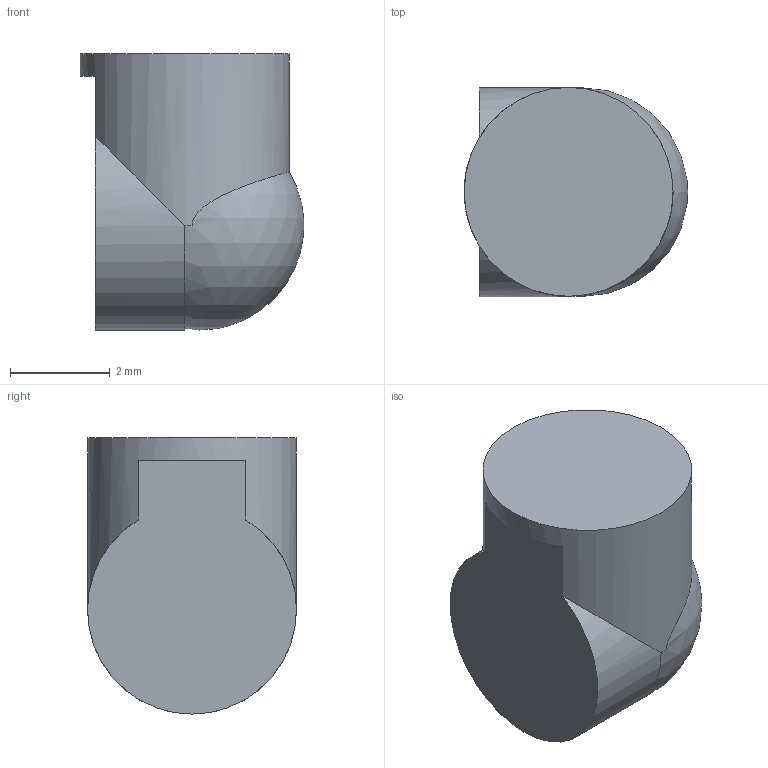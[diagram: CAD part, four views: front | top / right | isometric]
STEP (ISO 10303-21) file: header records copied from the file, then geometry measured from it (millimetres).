
FILE_DESCRIPTION(('Open CASCADE Model'),'2;1');
FILE_NAME('C27_R2_Internal_Right_Angle_Light_Coupler', '2026-09-10T02:58:45',('Author'),('Open CASCADE'), 'Open CASCADE STEP processor 7.9','build123d','Unknown');
FILE_SCHEMA(('AUTOMOTIVE_DESIGN { 1 0 10303 214 1 1 1 1 }'));
Length unit declared in the file: millimetre
Products named in the file (1): C27_R2_Internal_Right_Angle_Light_Coupler
Bounding box: 4.5 x 4.2 x 5.55 mm (x, y, z)
Volume: 72.5 mm3; surface area: 96.7 mm2
Topology: 1 solids, 1 shells, 9 faces, 21 edges, 13 vertices
Faces by surface type: plane 6, cylinder 2, sphere 1
Full cylindrical faces by diameter (mm): 4.2 x1
Entity records: 1010 total; most frequent: CARTESIAN_POINT 601, DIRECTION 74, ORIENTED_EDGE 40, PCURVE 40, DEFINITIONAL_REPRESENTATION 40, AXIS2_PLACEMENT_3D 22, LINE 21, VECTOR 21
